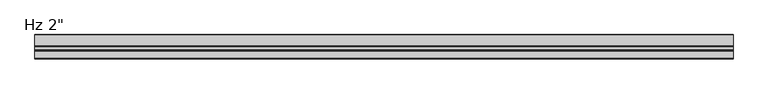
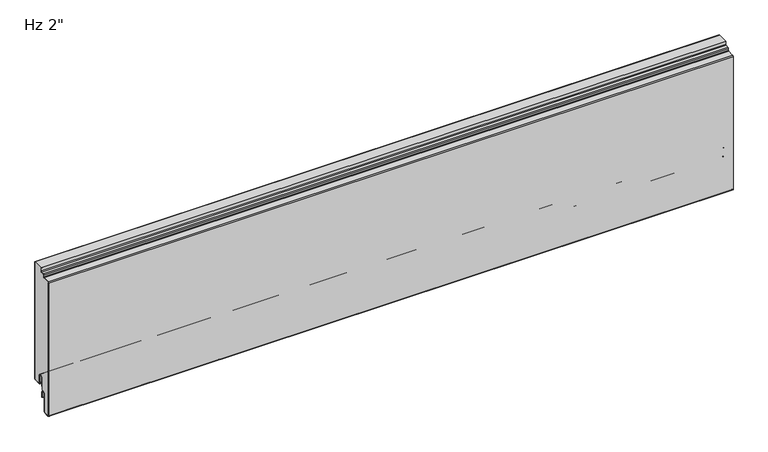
"""IFC4 building model written with IfcOpenShell, lengths in millimetres: plate geometry."""

import ifcopenshell
import ifcopenshell.guid

model = None  # the IFC model being written
_history = None  # IfcOwnerHistory: only IFC2X3 demands one
_inside = {}  # id of a spatial element -> (the spatial element, [elements in it])
_under = {}  # id of a project, library or spatial element -> (it, [spatial elements below it])
_declared = {}  # id of a project -> (the project, [libraries it declares])
_typed = {}  # id of a type object -> (the type object, [elements of that type])
_made_of = {}  # id of a material, layer set ... -> (it, [elements and type objects made of it])


def new_model(schema):
    """Start an empty IFC model of exactly this schema.

    Asked for "IFC4X3", IfcOpenShell would pick the latest addendum, in which some entities
    have other attributes; the version numbers below select the first issue.
    IFC2X3 requires an IfcOwnerHistory on every rooted entity: one is made here for all.
    """
    global model, _history
    if schema == "IFC4X3":
        model = ifcopenshell.file(schema_version=(4, 3, 0, 0))
    else:
        model = ifcopenshell.file(schema=schema)
    _inside.clear()
    _under.clear()
    _declared.clear()
    _typed.clear()
    _made_of.clear()
    _history = None
    if model.schema == "IFC2X3":
        org = make("IfcOrganization", Name="unknown")
        user = make(
            "IfcPersonAndOrganization",
            ThePerson=make("IfcPerson", FamilyName="unknown"),
            TheOrganization=org,
        )
        app = make(
            "IfcApplication",
            ApplicationDeveloper=org,
            Version="unknown",
            ApplicationFullName="unknown",
            ApplicationIdentifier="unknown",
        )
        _history = make(
            "IfcOwnerHistory",
            OwningUser=user,
            OwningApplication=app,
            ChangeAction="ADDED",
            CreationDate=0,
        )
    return model


def make(cls, **values):
    """One entity of the class cls with the attributes given. An attribute that is None is left unset."""
    return model.create_entity(
        cls, **{name: value for name, value in values.items() if value is not None}
    )


def rooted(cls, **values):
    """An entity with a GlobalId (a new one), such as an element, a storey or a relation."""
    return make(cls, GlobalId=ifcopenshell.guid.new(), OwnerHistory=_history, **values)


def si_unit(unit_type, name, prefix=None):
    """IfcSIUnit, for example si_unit("LENGTHUNIT", "METRE", prefix="MILLI")."""
    return make("IfcSIUnit", UnitType=unit_type, Prefix=prefix, Name=name)


def assignment(units):
    """IfcUnitAssignment: the units of a project."""
    return None if units is None else make("IfcUnitAssignment", Units=units)


def point(xyz):
    """IfcCartesianPoint."""
    return None if xyz is None else make("IfcCartesianPoint", Coordinates=xyz)


def direction(xyz):
    """IfcDirection."""
    return None if xyz is None else make("IfcDirection", DirectionRatios=xyz)


def frame(location, z_axis=None, x_axis=None):
    """IfcAxis2Placement3D, a coordinate frame: its origin and axes. An axis left out is left unset."""
    return make(
        "IfcAxis2Placement3D",
        Location=point(location),
        Axis=direction(z_axis),
        RefDirection=direction(x_axis),
    )


def frame_2d(location, x_axis=None):
    """IfcAxis2Placement2D, a coordinate frame in the plane: its origin and x axis."""
    return make(
        "IfcAxis2Placement2D", Location=point(location), RefDirection=direction(x_axis)
    )


def origin():
    """The frame at (0, 0, 0) with its axes left unset."""
    return frame((0.0, 0.0, 0.0))


def place(relative_to, where):
    """IfcLocalPlacement: puts the frame where relative to a parent placement (None: the world)."""
    return make(
        "IfcLocalPlacement", PlacementRelTo=relative_to, RelativePlacement=where
    )


def context(
    kind, dimensions, precision=None, world=None, true_north=None, identifier=None
):
    """IfcGeometricRepresentationContext, for example the 3D "Model" context."""
    return make(
        "IfcGeometricRepresentationContext",
        ContextIdentifier=identifier,
        ContextType=kind,
        CoordinateSpaceDimension=dimensions,
        Precision=precision,
        WorldCoordinateSystem=world,
        TrueNorth=true_north,
    )


def project(units=None, contexts=None):
    """IfcProject with its units and contexts."""
    return rooted(
        "IfcProject",
        Name="project",
        RepresentationContexts=contexts,
        UnitsInContext=assignment(units),
    )


def spatial(cls, under=None, at=None, **own):
    """A site, building, storey or space (cls), placed at a placement, below another one or the project."""
    s = rooted(cls, ObjectPlacement=at, **own)
    if under is not None:
        _under.setdefault(under.id(), (under, []))[1].append(s)
    return s


def polyline(points):
    """IfcPolyline through the points."""
    return make("IfcPolyline", Points=[point(p) for p in points])


def circle_curve(where, radius):
    """IfcCircle in the frame where."""
    return make("IfcCircle", Position=where, Radius=radius)


def trimmed(basis, trim1, trim2, sense, master):
    """IfcTrimmedCurve: the piece of a basis curve between two trims."""
    return make(
        "IfcTrimmedCurve",
        BasisCurve=basis,
        Trim1=trim1,
        Trim2=trim2,
        SenseAgreement=sense,
        MasterRepresentation=master,
    )


def segment(curve, same_sense, transition):
    """IfcCompositeCurveSegment."""
    return make(
        "IfcCompositeCurveSegment",
        Transition=transition,
        SameSense=same_sense,
        ParentCurve=curve,
    )


def composite_curve(segments, self_intersect=None):
    """IfcCompositeCurve: segments joined end to end."""
    return make("IfcCompositeCurve", Segments=segments, SelfIntersect=self_intersect)


def outline(outer, holes=None, kind="AREA"):
    """IfcArbitraryClosedProfileDef: a profile drawn as a closed curve; with holes, ...WithVoids."""
    if holes is None:
        return make("IfcArbitraryClosedProfileDef", ProfileType=kind, OuterCurve=outer)
    return make(
        "IfcArbitraryProfileDefWithVoids",
        ProfileType=kind,
        OuterCurve=outer,
        InnerCurves=holes,
    )


def extrude(swept, where, along, depth):
    """IfcExtrudedAreaSolid: the profile swept, set in the frame where, extruded along a direction by depth."""
    return make(
        "IfcExtrudedAreaSolid",
        SweptArea=swept,
        Position=where,
        ExtrudedDirection=direction(along),
        Depth=depth,
    )


def shape(context_of_items, identifier, shape_type, items):
    """IfcShapeRepresentation: the items that make up one representation, for example the "Body"."""
    return make(
        "IfcShapeRepresentation",
        ContextOfItems=context_of_items,
        RepresentationIdentifier=identifier,
        RepresentationType=shape_type,
        Items=items,
    )


def source(mapping_origin, context_of_items, identifier, shape_type, items):
    """IfcRepresentationMap: a shape defined once, which mapped items show again and again."""
    return make(
        "IfcRepresentationMap",
        MappingOrigin=mapping_origin,
        MappedRepresentation=shape(context_of_items, identifier, shape_type, items),
    )


def transform(
    local_origin,
    x_axis=None,
    y_axis=None,
    z_axis=None,
    scale=None,
    scale2=None,
    scale3=None,
    uniform=True,
):
    """IfcCartesianTransformationOperator3D, or its non-uniform kind. x_axis, y_axis, z_axis: its Axis1, 2, 3."""
    if uniform:
        return make(
            "IfcCartesianTransformationOperator3D",
            Axis1=direction(x_axis),
            Axis2=direction(y_axis),
            LocalOrigin=point(local_origin),
            Scale=scale,
            Axis3=direction(z_axis),
        )
    return make(
        "IfcCartesianTransformationOperator3DnonUniform",
        Axis1=direction(x_axis),
        Axis2=direction(y_axis),
        LocalOrigin=point(local_origin),
        Scale=scale,
        Axis3=direction(z_axis),
        Scale2=scale2,
        Scale3=scale3,
    )


def mapped(mapping_source, mapping_target):
    """IfcMappedItem: shows the shape of a source again, moved by a transform."""
    return make(
        "IfcMappedItem", MappingSource=mapping_source, MappingTarget=mapping_target
    )


def made_of(thing, what):
    """Note that an element or type object is made of a material, layer set ...; save() writes the relation."""
    if what is not None:
        _made_of.setdefault(what.id(), (what, []))[1].append(thing)
    return thing


def element(
    cls,
    number,
    at=None,
    inside=None,
    cuts=None,
    type_object=None,
    material=None,
    context=None,
    identifier="Body",
    shape_type=None,
    held_by="IfcProductDefinitionShape",
    body=None,
    shapes=None,
    **own,
):
    """One element of the class cls, such as IfcWall. Its Tag is "e" and its number.

    at: its placement. inside: the storey or other place that contains it. cuts: it is an
    opening in that element (IfcRelVoidsElement). A single representation is given by context,
    identifier, shape_type and body (its items); several are given by shapes. held_by: the class
    of the entity that holds the representations. save() writes the other relations.
    """
    e = rooted(cls, Tag="e%d" % number, ObjectPlacement=at, **own)
    if body is not None:
        shapes = [shape(context, identifier, shape_type, body)]
    if shapes is not None:
        e.Representation = make(held_by, Representations=shapes)
    if inside is not None:
        _inside.setdefault(inside.id(), (inside, []))[1].append(e)
    if cuts is not None:
        rooted(
            "IfcRelVoidsElement", RelatingBuildingElement=cuts, RelatedOpeningElement=e
        )
    if type_object is not None:
        _typed.setdefault(type_object.id(), (type_object, []))[1].append(e)
    return made_of(e, material)


def aggregate(whole, parts):
    """IfcRelAggregates: a whole, such as a stair, and the parts it consists of."""
    return rooted("IfcRelAggregates", RelatingObject=whole, RelatedObjects=parts)


def save(model, path):
    """Write the relations noted so far, then the file.

    IfcRelAggregates (storeys below a building ...), IfcRelContainedInSpatialStructure (elements
    in a storey), IfcRelDefinesByType, IfcRelAssociatesMaterial and IfcRelDeclares: one each for
    every whole, place, type object, material and project.
    """
    for whole, parts in _under.values():
        aggregate(whole, parts)
    for where, things in _inside.values():
        rooted(
            "IfcRelContainedInSpatialStructure",
            RelatedElements=things,
            RelatingStructure=where,
        )
    for kind, things in _typed.values():
        rooted("IfcRelDefinesByType", RelatedObjects=things, RelatingType=kind)
    for what, things in _made_of.values():
        rooted("IfcRelAssociatesMaterial", RelatedObjects=things, RelatingMaterial=what)
    for by, libraries in _declared.values():
        rooted("IfcRelDeclares", RelatingContext=by, RelatedDefinitions=libraries)
    model.write(path)


def plate_1d96f5e6(model_context):
    return source(origin(), model_context, "Body", "SweptSolid", [
        extrude(outline(composite_curve([segment(polyline([(-22.8125, 259.7620957), (-22.8125, 266.4), (-1.0, 266.4), (-1.0, 3.175)]), True, "CONTINUOUS"), segment(trimmed(circle_curve(frame_2d((-2.38125, 3.175)), 1.38125), [point((-1.0, 3.175))], [point((-2.38125, 1.79375))], False, "CARTESIAN"), True, "CONTINUOUS"), segment(polyline([(-2.38125, 1.79375), (-15.08125, 1.79375)]), True, "CONTINUOUS"), segment(trimmed(circle_curve(frame_2d((-15.08125, 3.175)), 1.38125), [point((-15.08125, 1.79375))], [point((-16.4625, 3.175))], False, "CARTESIAN"), True, "CONTINUOUS"), segment(polyline([(-16.4625, 3.175), (-16.4625, 19.05)]), True, "CONTINUOUS"), segment(trimmed(circle_curve(frame_2d((-21.43125, 19.05)), 4.96875), [point((-16.4625, 19.05))], [point((-26.4, 19.05))], True, "CARTESIAN"), True, "CONTINUOUS"), segment(polyline([(-26.4, 19.05), (-26.4, -6.9375), (-30.95625, -6.9375)]), True, "CONTINUOUS"), segment(trimmed(circle_curve(frame_2d((-30.95625, -11.90625)), 4.96875), [point((-30.95625, -6.9375))], [point((-35.925, -11.90625))], True, "CARTESIAN"), True, "CONTINUOUS"), segment(polyline([(-35.925, -11.90625), (-35.925, -50.0895546)]), True, "CONTINUOUS"), segment(trimmed(circle_curve(frame_2d((-37.30625, -50.0895546)), 1.38125), [point((-35.925, -50.0895546))], [point((-37.233961, -51.4689117))], False, "CARTESIAN"), True, "CONTINUOUS"), segment(polyline([(-37.233961, -51.4689117), (-48.346461, -52.0512931)]), True, "CONTINUOUS"), segment(trimmed(circle_curve(frame_2d((-48.41875, -50.6719361)), 1.38125), [point((-48.346461, -52.0512931))], [point((-49.8, -50.6719361))], False, "CARTESIAN"), True, "CONTINUOUS"), segment(polyline([(-49.8, -50.6719361), (-49.8, 247.7572607)]), True, "CONTINUOUS"), segment(trimmed(circle_curve(frame_2d((-48.41875, 247.7572607)), 1.38125), [point((-49.8, 247.7572607))], [point((-48.491039, 249.1366177))], False, "CARTESIAN"), True, "CONTINUOUS"), segment(polyline([(-48.491039, 249.1366177), (-34.7895807, 249.8546807)]), True, "CONTINUOUS"), segment(trimmed(circle_curve(frame_2d((-34.925, 252.4386347)), 2.5875), [point((-34.7895807, 249.8546807))], [point((-32.3375, 252.4386347))], True, "CARTESIAN"), True, "CONTINUOUS"), segment(polyline([(-32.3375, 252.4386347), (-32.3375, 255.4967085)]), True, "CONTINUOUS"), segment(trimmed(circle_curve(frame_2d((-30.95625, 255.4967085)), 1.38125), [point((-32.3375, 255.4967085))], [point((-31.028539, 256.8760655))], False, "CARTESIAN"), True, "CONTINUOUS"), segment(polyline([(-31.028539, 256.8760655), (-25.2645807, 257.1781418)]), True, "CONTINUOUS"), segment(trimmed(circle_curve(frame_2d((-25.4, 259.7620957)), 2.5875), [point((-25.2645807, 257.1781418))], [point((-22.8125, 259.7620957))], True, "CARTESIAN"), True, "CONTINUOUS")], self_intersect=False)), frame((-730.0, 0.0, 0.0), z_axis=(1.0, 0.0, 0.0), x_axis=(0.0, 1.0, 0.0)), (0.0, 0.0, 1.0), 1460.0),
        extrude(outline(composite_curve([segment(polyline([(-25.4, 0.79375), (-26.4, 0.79375), (-26.4, 19.05)]), True, "CONTINUOUS"), segment(trimmed(circle_curve(frame_2d((-21.43125, 19.05)), 4.96875), [point((-26.4, 19.05))], [point((-16.4625, 19.05))], False, "CARTESIAN"), True, "CONTINUOUS"), segment(polyline([(-16.4625, 19.05), (-16.4625, 3.175)]), True, "CONTINUOUS"), segment(trimmed(circle_curve(frame_2d((-15.08125, 3.175)), 1.38125), [point((-16.4625, 3.175))], [point((-15.08125, 1.79375))], True, "CARTESIAN"), True, "CONTINUOUS"), segment(polyline([(-15.08125, 1.79375), (-2.38125, 1.79375)]), True, "CONTINUOUS"), segment(trimmed(circle_curve(frame_2d((-2.38125, 3.175)), 1.38125), [point((-2.38125, 1.79375))], [point((-1.0, 3.175))], True, "CARTESIAN"), True, "CONTINUOUS"), segment(polyline([(-1.0, 3.175), (-1.0, 266.4), (0.0, 266.4), (0.0, 3.175)]), True, "CONTINUOUS"), segment(trimmed(circle_curve(frame_2d((-2.38125, 3.175)), 2.38125), [point((0.0, 3.175))], [point((-2.38125, 0.79375))], False, "CARTESIAN"), True, "CONTINUOUS"), segment(polyline([(-2.38125, 0.79375), (-15.08125, 0.79375)]), True, "CONTINUOUS"), segment(trimmed(circle_curve(frame_2d((-15.08125, 3.175)), 2.38125), [point((-15.08125, 0.79375))], [point((-17.4625, 3.175))], False, "CARTESIAN"), True, "CONTINUOUS"), segment(polyline([(-17.4625, 3.175), (-17.4625, 19.05)]), True, "CONTINUOUS"), segment(trimmed(circle_curve(frame_2d((-21.43125, 19.05)), 3.96875), [point((-17.4625, 19.05))], [point((-25.4, 19.05))], True, "CARTESIAN"), True, "CONTINUOUS"), segment(polyline([(-25.4, 19.05), (-25.4, 0.79375)]), True, "CONTINUOUS")], self_intersect=False)), frame((-730.0, 0.0, 0.0), z_axis=(1.0, 0.0, 0.0), x_axis=(0.0, 1.0, 0.0)), (0.0, 0.0, 1.0), 1460.0),
        extrude(outline(composite_curve([segment(trimmed(circle_curve(frame_2d((-26.19375, -23.2314549)), 0.79375), [point((-25.4, -23.2314549))], [point((-26.9875, -23.2314549))], False, "CARTESIAN"), True, "CONTINUOUS"), segment(polyline([(-26.9875, -23.2314549), (-26.9875, -11.9205174)]), True, "CONTINUOUS"), segment(trimmed(circle_curve(frame_2d((-30.95625, -11.9205174)), 3.96875), [point((-26.9875, -11.9205174))], [point((-34.925, -11.9205174))], True, "CARTESIAN"), True, "CONTINUOUS"), segment(polyline([(-34.925, -11.9205174), (-34.925, -50.1038221)]), True, "CONTINUOUS"), segment(trimmed(circle_curve(frame_2d((-37.30625, -50.1038221)), 2.38125), [point((-34.925, -50.1038221))], [point((-37.181625, -52.4818086))], False, "CARTESIAN"), True, "CONTINUOUS"), segment(polyline([(-37.181625, -52.4818086), (-48.294125, -53.0641901)]), True, "CONTINUOUS"), segment(trimmed(circle_curve(frame_2d((-48.41875, -50.6862035)), 2.38125), [point((-48.294125, -53.0641901))], [point((-50.8, -50.6862035))], False, "CARTESIAN"), True, "CONTINUOUS"), segment(polyline([(-50.8, -50.6862035), (-50.8, 247.7572607)]), True, "CONTINUOUS"), segment(trimmed(circle_curve(frame_2d((-48.41875, 247.7572607)), 2.38125), [point((-50.8, 247.7572607))], [point((-48.543375, 250.1352473))], False, "CARTESIAN"), True, "CONTINUOUS"), segment(polyline([(-48.543375, 250.1352473), (-34.8419167, 250.8533103)]), True, "CONTINUOUS"), segment(trimmed(circle_curve(frame_2d((-34.925, 252.4386347)), 1.5875), [point((-34.8419167, 250.8533103))], [point((-33.3375, 252.4386347))], True, "CARTESIAN"), True, "CONTINUOUS"), segment(polyline([(-33.3375, 252.4386347), (-33.3375, 255.4824411)]), True, "CONTINUOUS"), segment(trimmed(circle_curve(frame_2d((-30.95625, 255.4824411)), 2.38125), [point((-33.3375, 255.4824411))], [point((-31.080875, 257.8604276))], False, "CARTESIAN"), True, "CONTINUOUS"), segment(polyline([(-31.080875, 257.8604276), (-25.3169167, 258.1625039)]), True, "CONTINUOUS"), segment(trimmed(circle_curve(frame_2d((-25.4, 259.7478283)), 1.5875), [point((-25.3169167, 258.1625039))], [point((-23.8125, 259.7478283))], True, "CARTESIAN"), True, "CONTINUOUS"), segment(polyline([(-23.8125, 259.7478283), (-23.8125, 266.4), (-22.8125, 266.4), (-22.8125, 259.7478283)]), True, "CONTINUOUS"), segment(trimmed(circle_curve(frame_2d((-25.4, 259.7478283)), 2.5875), [point((-22.8125, 259.7478283))], [point((-25.2645807, 257.1638744))], False, "CARTESIAN"), True, "CONTINUOUS"), segment(polyline([(-25.2645807, 257.1638744), (-31.028539, 256.8617981)]), True, "CONTINUOUS"), segment(trimmed(circle_curve(frame_2d((-30.95625, 255.4824411)), 1.38125), [point((-31.028539, 256.8617981))], [point((-32.3375, 255.4824411))], True, "CARTESIAN"), True, "CONTINUOUS"), segment(polyline([(-32.3375, 255.4824411), (-32.3375, 252.4386347)]), True, "CONTINUOUS"), segment(trimmed(circle_curve(frame_2d((-34.925, 252.4386347)), 2.5875), [point((-32.3375, 252.4386347))], [point((-34.7895807, 249.8546807))], False, "CARTESIAN"), True, "CONTINUOUS"), segment(polyline([(-34.7895807, 249.8546807), (-48.491039, 249.1366177)]), True, "CONTINUOUS"), segment(trimmed(circle_curve(frame_2d((-48.41875, 247.7572607)), 1.38125), [point((-48.491039, 249.1366177))], [point((-49.8, 247.7572607))], True, "CARTESIAN"), True, "CONTINUOUS"), segment(polyline([(-49.8, 247.7572607), (-49.8, -50.6862035)]), True, "CONTINUOUS"), segment(trimmed(circle_curve(frame_2d((-48.41875, -50.6862035)), 1.38125), [point((-49.8, -50.6862035))], [point((-48.346461, -52.0655606))], True, "CARTESIAN"), True, "CONTINUOUS"), segment(polyline([(-48.346461, -52.0655606), (-37.233961, -51.4831791)]), True, "CONTINUOUS"), segment(trimmed(circle_curve(frame_2d((-37.30625, -50.1038221)), 1.38125), [point((-37.233961, -51.4831791))], [point((-35.925, -50.1038221))], True, "CARTESIAN"), True, "CONTINUOUS"), segment(polyline([(-35.925, -50.1038221), (-35.925, -11.9205174)]), True, "CONTINUOUS"), segment(trimmed(circle_curve(frame_2d((-30.95625, -11.9205174)), 4.96875), [point((-35.925, -11.9205174))], [point((-25.9875, -11.9205174))], False, "CARTESIAN"), True, "CONTINUOUS"), segment(polyline([(-25.9875, -11.9205174), (-26.19375, -13.5080174), (-25.4, -13.5080174), (-25.4, -23.2314549)]), True, "CONTINUOUS")], self_intersect=False)), frame((-730.0, 0.0, 0.0), z_axis=(1.0, 0.0, 0.0), x_axis=(0.0, 1.0, 0.0)), (0.0, 0.0, 1.0), 1460.0),
    ])


if __name__ == "__main__":
    model = new_model("IFC4")
    model_context = context("Model", 3, world=origin())
    ifc_project = project(units=[si_unit("LENGTHUNIT", "METRE", prefix="MILLI")], contexts=[model_context])
    site = spatial("IfcSite", under=ifc_project)
    building = spatial("IfcBuilding", under=site)
    placement = place(None, origin())
    plate_shape = plate_1d96f5e6(model_context)
    element("IfcPlate", 1, ObjectType="KIP-12-DWTR-R19-CP-Hz-F : Hz 2\"", at=placement, inside=building, context=model_context, shape_type="MappedRepresentation", body=[
        mapped(plate_shape, transform((0.0, 0.0, 0.0), x_axis=(1.0, 0.0, 0.0), y_axis=(0.0, 1.0, 0.0), z_axis=(0.0, 0.0, 1.0))),
    ])
    save(model, "model.ifc")
